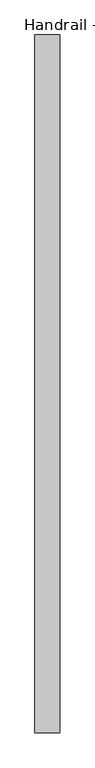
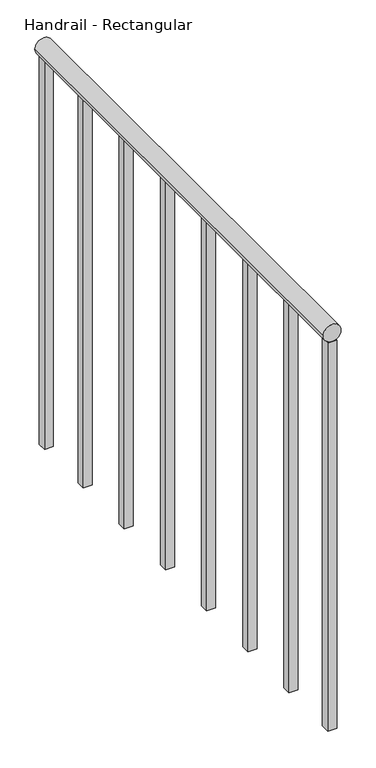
"""IFC4 building model written with IfcOpenShell, lengths in millimetres: railing geometry, Handrail - Rectangular."""

from ifc_helpers import new_model, si_unit, point, frame, frame_2d, origin, place, context, project, spatial, polyline, circle_curve, trimmed, segment, composite_curve, outline, extrude, source, transform, mapped, element, save


def handrail_rectangular_bbfcefb0(model_context):
    return source(origin(), model_context, "Body", "SweptSolid", [
        extrude(outline(composite_curve([segment(trimmed(circle_curve(frame_2d((10039.35, -32167.4839563)), 19.05), [point((10039.35, -32186.5339563))], [point((10039.35, -32148.4339563))], False, "CARTESIAN"), True, "CONTINUOUS"), segment(trimmed(circle_curve(frame_2d((10039.35, -32167.4839563)), 19.05), [point((10039.35, -32148.4339563))], [point((10039.35, -32186.5339563))], False, "CARTESIAN"), True, "CONTINUOUS")], self_intersect=False)), frame((0.0, -31539.9683133, 0.0), z_axis=(0.0, 1.0, 0.0), x_axis=(0.0, 0.0, 1.0)), (0.0, 0.0, 1.0), 1066.8),
        extrude(outline(polyline([(-32157.9589563, -30635.0933133), (-32177.0089563, -30635.0933133), (-32177.0089563, -30616.0433133), (-32157.9589563, -30616.0433133), (-32157.9589563, -30635.0933133)])), frame((0.0, 0.0, 9144.0), z_axis=(0.0, 0.0, 1.0), x_axis=(1.0, 0.0, 0.0)), (0.0, 0.0, 1.0), 876.3),
        extrude(outline(polyline([(-32157.9589563, -30787.4933133), (-32177.0089563, -30787.4933133), (-32177.0089563, -30768.4433133), (-32157.9589563, -30768.4433133), (-32157.9589563, -30787.4933133)])), frame((0.0, 0.0, 9144.0), z_axis=(0.0, 0.0, 1.0), x_axis=(1.0, 0.0, 0.0)), (0.0, 0.0, 1.0), 876.3),
        extrude(outline(polyline([(-32157.9589563, -30939.8933133), (-32177.0089563, -30939.8933133), (-32177.0089563, -30920.8433133), (-32157.9589563, -30920.8433133), (-32157.9589563, -30939.8933133)])), frame((0.0, 0.0, 9144.0), z_axis=(0.0, 0.0, 1.0), x_axis=(1.0, 0.0, 0.0)), (0.0, 0.0, 1.0), 876.3),
        extrude(outline(polyline([(-32157.9589563, -31092.2933133), (-32177.0089563, -31092.2933133), (-32177.0089563, -31073.2433133), (-32157.9589563, -31073.2433133), (-32157.9589563, -31092.2933133)])), frame((0.0, 0.0, 9144.0), z_axis=(0.0, 0.0, 1.0), x_axis=(1.0, 0.0, 0.0)), (0.0, 0.0, 1.0), 876.3),
        extrude(outline(polyline([(-32157.9589563, -31244.6933133), (-32177.0089563, -31244.6933133), (-32177.0089563, -31225.6433133), (-32157.9589563, -31225.6433133), (-32157.9589563, -31244.6933133)])), frame((0.0, 0.0, 9144.0), z_axis=(0.0, 0.0, 1.0), x_axis=(1.0, 0.0, 0.0)), (0.0, 0.0, 1.0), 876.3),
        extrude(outline(polyline([(-32157.9589563, -31397.0933133), (-32177.0089563, -31397.0933133), (-32177.0089563, -31378.0433133), (-32157.9589563, -31378.0433133), (-32157.9589563, -31397.0933133)])), frame((0.0, 0.0, 9144.0), z_axis=(0.0, 0.0, 1.0), x_axis=(1.0, 0.0, 0.0)), (0.0, 0.0, 1.0), 876.3),
        extrude(outline(polyline([(-32157.9589563, -30492.2183133), (-32177.0089563, -30492.2183133), (-32177.0089563, -30473.1683133), (-32157.9589563, -30473.1683133), (-32157.9589563, -30492.2183133)])), frame((0.0, 0.0, 9144.0), z_axis=(0.0, 0.0, 1.0), x_axis=(1.0, 0.0, 0.0)), (0.0, 0.0, 1.0), 876.3),
        extrude(outline(polyline([(-32157.9589563, -31539.9683133), (-32177.0089563, -31539.9683133), (-32177.0089563, -31520.9183133), (-32157.9589563, -31520.9183133), (-32157.9589563, -31539.9683133)])), frame((0.0, 0.0, 9144.0), z_axis=(0.0, 0.0, 1.0), x_axis=(1.0, 0.0, 0.0)), (0.0, 0.0, 1.0), 876.3),
    ])


if __name__ == "__main__":
    model = new_model("IFC4")
    model_context = context("Model", 3, world=origin())
    ifc_project = project(units=[si_unit("LENGTHUNIT", "METRE", prefix="MILLI")], contexts=[model_context])
    site = spatial("IfcSite", under=ifc_project)
    building = spatial("IfcBuilding", under=site)
    placement = place(None, origin())
    handrail_rectangular_shape = handrail_rectangular_bbfcefb0(model_context)
    element("IfcRailing", 1, ObjectType="Handrail - Rectangular", at=placement, inside=building, context=model_context, shape_type="MappedRepresentation", body=[
        mapped(handrail_rectangular_shape, transform((0.0, 0.0, 0.0), x_axis=(1.0, 0.0, 0.0), y_axis=(0.0, 1.0, 0.0), z_axis=(0.0, 0.0, 1.0))),
    ])
    save(model, "model.ifc")
